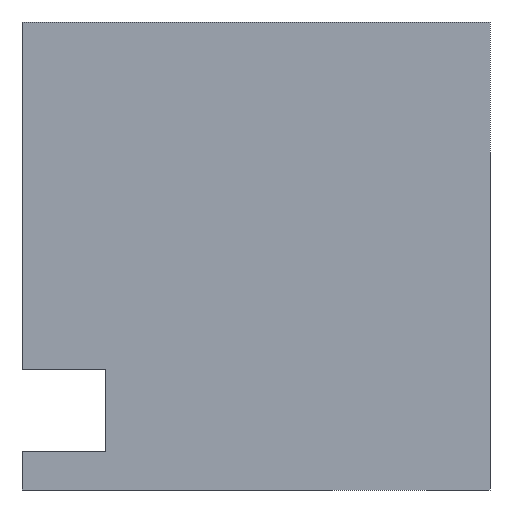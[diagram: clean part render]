
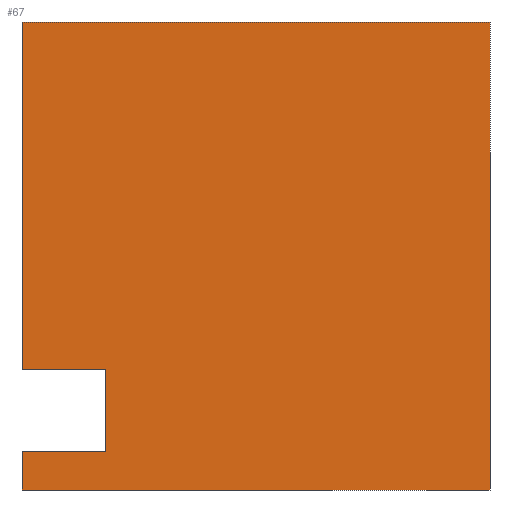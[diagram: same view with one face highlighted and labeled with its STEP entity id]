
A CAD part, left-side view. The second image highlights one B-rep face of the part: STEP entity #67.
In plain terms, the highlighted planar face has unit normal (-1, 0, 0).
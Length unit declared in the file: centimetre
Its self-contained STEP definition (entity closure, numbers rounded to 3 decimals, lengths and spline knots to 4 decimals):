
#3 = LINE ( 'NONE', #384, #1007 ) ;
#10 = VERTEX_POINT ( 'NONE', #1117 ) ;
#41 = DIRECTION ( 'NONE',  ( 0., 0., -1. ) ) ;
#52 = CARTESIAN_POINT ( 'NONE',  ( 0., 1000., 1000. ) ) ;
#67 = ADVANCED_FACE ( 'NONE', ( #1132 ), #485, .F. ) ;
#70 = VERTEX_POINT ( 'NONE', #772 ) ;
#139 = ORIENTED_EDGE ( 'NONE', *, *, #816, .F. ) ;
#141 = ORIENTED_EDGE ( 'NONE', *, *, #924, .T. ) ;
#151 = VECTOR ( 'NONE', #1021, 100. ) ;
#186 = DIRECTION ( 'NONE',  ( 0., 0., -1. ) ) ;
#208 = AXIS2_PLACEMENT_3D ( 'NONE', #759, #284, #186 ) ;
#213 = DIRECTION ( 'NONE',  ( 0., 0., -1. ) ) ;
#227 = CARTESIAN_POINT ( 'NONE',  ( 0., 1000., 1000. ) ) ;
#234 = ORIENTED_EDGE ( 'NONE', *, *, #547, .T. ) ;
#275 = VECTOR ( 'NONE', #213, 100. ) ;
#278 = VERTEX_POINT ( 'NONE', #746 ) ;
#284 = DIRECTION ( 'NONE',  ( 1., 0., 0. ) ) ;
#289 = DIRECTION ( 'NONE',  ( 0., -1., 0. ) ) ;
#333 = VERTEX_POINT ( 'NONE', #1032 ) ;
#339 = CARTESIAN_POINT ( 'NONE',  ( 0., 821.4993, 81.6217 ) ) ;
#350 = CARTESIAN_POINT ( 'NONE',  ( 0., 1000., 1000. ) ) ;
#354 = DIRECTION ( 'NONE',  ( 0., 1., 0. ) ) ;
#369 = VERTEX_POINT ( 'NONE', #671 ) ;
#370 = DIRECTION ( 'NONE',  ( 0., -1., 0. ) ) ;
#384 = CARTESIAN_POINT ( 'NONE',  ( 0., 821.4993, 81.6217 ) ) ;
#435 = VERTEX_POINT ( 'NONE', #505 ) ;
#457 = ORIENTED_EDGE ( 'NONE', *, *, #788, .F. ) ;
#460 = LINE ( 'NONE', #350, #500 ) ;
#471 = EDGE_CURVE ( 'NONE', #10, #278, #1077, .T. ) ;
#485 = PLANE ( 'NONE',  #208 ) ;
#493 = CARTESIAN_POINT ( 'NONE',  ( 0., 1000., 1000. ) ) ;
#500 = VECTOR ( 'NONE', #370, 100. ) ;
#505 = CARTESIAN_POINT ( 'NONE',  ( 0., 0., 1000. ) ) ;
#531 = DIRECTION ( 'NONE',  ( 0., 0., 1. ) ) ;
#542 = CARTESIAN_POINT ( 'NONE',  ( 0., 821.4993, 257.1457 ) ) ;
#547 = EDGE_CURVE ( 'NONE', #278, #70, #893, .T. ) ;
#589 = VERTEX_POINT ( 'NONE', #52 ) ;
#630 = DIRECTION ( 'NONE',  ( 0., -1., 0. ) ) ;
#644 = CARTESIAN_POINT ( 'NONE',  ( 0., 0., 1000. ) ) ;
#664 = VERTEX_POINT ( 'NONE', #920 ) ;
#671 = CARTESIAN_POINT ( 'NONE',  ( 0., 821.4993, 81.6217 ) ) ;
#696 = EDGE_CURVE ( 'NONE', #10, #369, #3, .T. ) ;
#699 = EDGE_LOOP ( 'NONE', ( #856, #1116, #1166, #234, #457, #139, #141, #790 ) ) ;
#729 = EDGE_CURVE ( 'NONE', #333, #664, #862, .T. ) ;
#746 = CARTESIAN_POINT ( 'NONE',  ( 0., 1000., 0. ) ) ;
#759 = CARTESIAN_POINT ( 'NONE',  ( 0., 1000., 1000. ) ) ;
#772 = CARTESIAN_POINT ( 'NONE',  ( 0., 0., 0. ) ) ;
#788 = EDGE_CURVE ( 'NONE', #435, #70, #1208, .T. ) ;
#790 = ORIENTED_EDGE ( 'NONE', *, *, #729, .F. ) ;
#798 = VECTOR ( 'NONE', #41, 100. ) ;
#816 = EDGE_CURVE ( 'NONE', #589, #435, #460, .T. ) ;
#856 = ORIENTED_EDGE ( 'NONE', *, *, #1172, .F. ) ;
#862 = LINE ( 'NONE', #542, #910 ) ;
#875 = VECTOR ( 'NONE', #630, 100. ) ;
#893 = LINE ( 'NONE', #1092, #875 ) ;
#910 = VECTOR ( 'NONE', #354, 100. ) ;
#912 = VECTOR ( 'NONE', #531, 100. ) ;
#920 = CARTESIAN_POINT ( 'NONE',  ( 0., 1000., 257.1457 ) ) ;
#924 = EDGE_CURVE ( 'NONE', #589, #664, #1143, .T. ) ;
#1007 = VECTOR ( 'NONE', #289, 100. ) ;
#1021 = DIRECTION ( 'NONE',  ( 0., 0., -1. ) ) ;
#1032 = CARTESIAN_POINT ( 'NONE',  ( 0., 821.4993, 257.1457 ) ) ;
#1077 = LINE ( 'NONE', #227, #798 ) ;
#1092 = CARTESIAN_POINT ( 'NONE',  ( 0., 1000., 0. ) ) ;
#1116 = ORIENTED_EDGE ( 'NONE', *, *, #696, .F. ) ;
#1117 = CARTESIAN_POINT ( 'NONE',  ( 0., 1000., 81.6217 ) ) ;
#1132 = FACE_OUTER_BOUND ( 'NONE', #699, .T. ) ;
#1143 = LINE ( 'NONE', #493, #275 ) ;
#1166 = ORIENTED_EDGE ( 'NONE', *, *, #471, .T. ) ;
#1172 = EDGE_CURVE ( 'NONE', #369, #333, #1184, .T. ) ;
#1184 = LINE ( 'NONE', #339, #912 ) ;
#1208 = LINE ( 'NONE', #644, #151 ) ;
